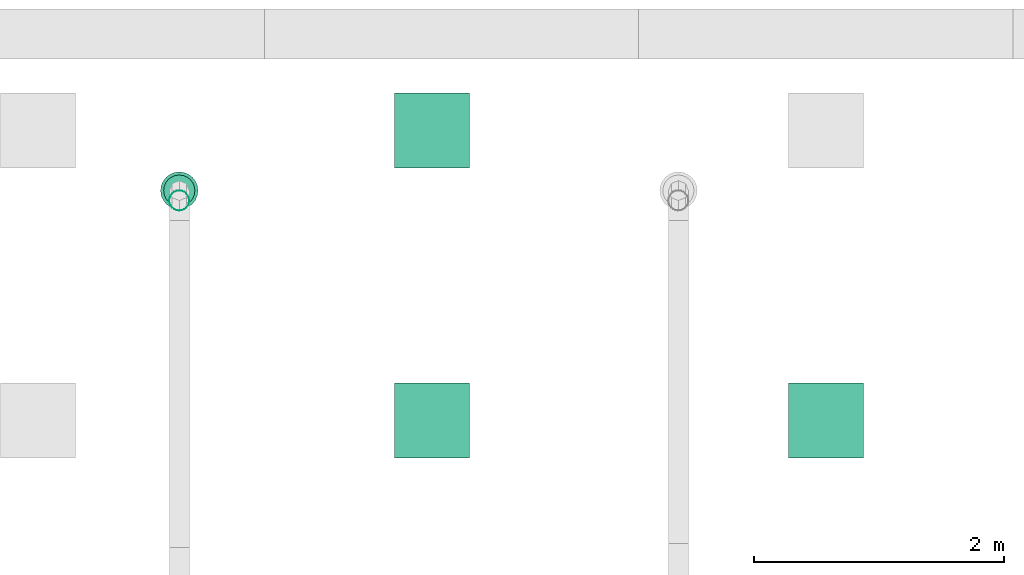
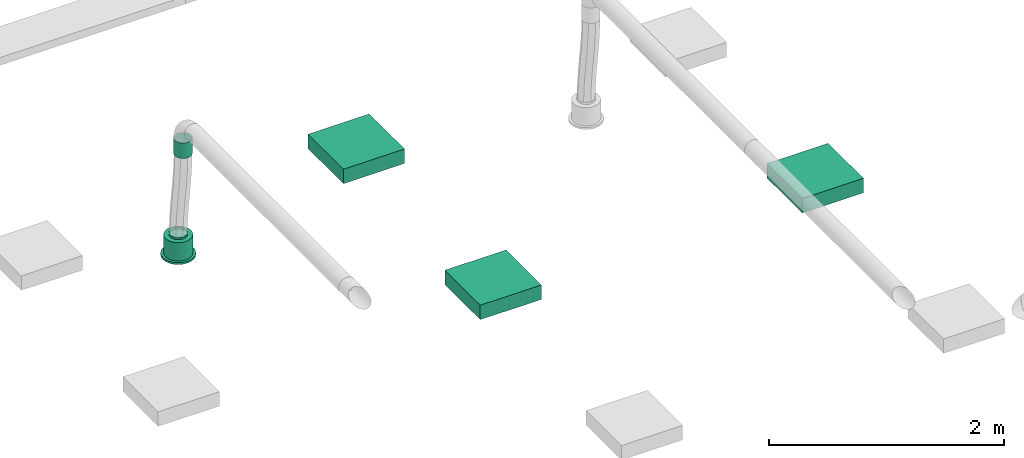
# One storey, part 41 of 374: 3 distribution elements, 1 flow segment, 1 flow terminal.
"""IFC2X3 building model written with IfcOpenShell, lengths in metres."""

from ifc_helpers import new_model, si_unit, direction, frame, frame_2d, origin, place, context, subcontext, project, spatial, rectangle, extrude, open_shell, surface_model, source, transform, mapped, element, save


model = new_model("IFC2X3")

# Units and contexts
model_context = context("Model", 3, precision=1e-05, world=origin(), true_north=direction((-0.4480736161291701, 0.8939966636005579)))
body_context = subcontext(model_context, "Body", "Model", "MODEL_VIEW")
ifc_project = project(units=[si_unit("LENGTHUNIT", "METRE"), si_unit("AREAUNIT", "SQUARE_METRE"), si_unit("VOLUMEUNIT", "CUBIC_METRE"), si_unit("PLANEANGLEUNIT", "RADIAN"), si_unit("THERMODYNAMICTEMPERATUREUNIT", "KELVIN"), si_unit("MASSUNIT", "GRAM", prefix="KILO"), si_unit("TIMEUNIT", "SECOND")], contexts=[model_context])

# Site, building, storey
site_placement = place(None, origin())
site = spatial("IfcSite", under=ifc_project, at=site_placement, Name="Site 1", CompositionType="ELEMENT")
building_placement = place(site_placement, origin())
building = spatial("IfcBuilding", under=site, at=building_placement, Name="Undefined", CompositionType="ELEMENT")
storey_placement = place(building_placement, origin())
storey = spatial("IfcBuildingStorey", under=building, at=storey_placement, Name="Rez de chauss\x8ee", CompositionType="ELEMENT", Elevation=0.0)

# Flow terminal
shared_shape_1 = source(origin(), body_context, "Body", "SurfaceModel", [
    surface_model("IfcFaceBasedSurfaceModel", [(0.0, 0.0, 0.0), (0.03915785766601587, 0.0, 0.0), (0.03915785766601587, 0.020000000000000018, 0.0), (3.552713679e-15, 0.020000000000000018, 0.0), (0.07698144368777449, 0.0, -0.010134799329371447), (0.07698144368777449, 0.020000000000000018, -0.010134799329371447), (0.11089314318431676, 0.0, -0.02971372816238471), (0.11089314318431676, 0.020000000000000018, -0.02971372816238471), (0.13858192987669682, 0.0, -0.05740251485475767), (0.13858192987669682, 0.020000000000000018, -0.05740251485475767), (0.15816085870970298, 0.0, -0.09131421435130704), (0.15816085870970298, 0.020000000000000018, -0.09131421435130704), (0.16829565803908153, 0.0, -0.12913780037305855), (0.16829565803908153, 0.020000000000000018, -0.12913780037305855), (0.16829565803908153, 0.0, -0.16829565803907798), (0.16829565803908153, 0.020000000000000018, -0.16829565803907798), (0.15816085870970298, 0.0, -0.20611924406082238), (0.15816085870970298, 0.020000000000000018, -0.20611924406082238), (0.13858192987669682, 0.0, -0.24003094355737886), (0.13858192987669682, 0.020000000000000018, -0.24003094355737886), (0.11089314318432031, 0.0, -0.2677197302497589), (0.11089314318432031, 0.020000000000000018, -0.2677197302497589), (0.07698144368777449, 0.0, -0.2872986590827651), (0.07698144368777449, 0.020000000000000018, -0.2872986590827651), (0.039157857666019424, 0.0, -0.29743345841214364), (0.039157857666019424, 0.020000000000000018, -0.29743345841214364), (3.552713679e-15, 0.0, -0.29743345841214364), (3.552713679e-15, 0.020000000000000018, -0.29743345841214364), (-0.03782358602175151, 0.0, -0.2872986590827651), (-0.03782358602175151, 0.020000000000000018, -0.2872986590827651), (-0.07173528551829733, 0.0, -0.2677197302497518), (-0.07173528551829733, 0.020000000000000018, -0.2677197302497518), (-0.0994240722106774, 0.0, -0.24003094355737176), (-0.0994240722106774, 0.020000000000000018, -0.24003094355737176), (-0.11900300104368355, 0.0, -0.2061192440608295), (-0.11900300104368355, 0.020000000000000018, -0.2061192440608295), (-0.1291378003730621, 0.0, -0.16829565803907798), (-0.1291378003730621, 0.020000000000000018, -0.16829565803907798), (-0.1291378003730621, 0.0, -0.12913780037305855), (-0.1291378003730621, 0.020000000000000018, -0.12913780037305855), (-0.11900300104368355, 0.0, -0.09131421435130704), (-0.11900300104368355, 0.020000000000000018, -0.09131421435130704), (-0.0994240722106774, 0.0, -0.05740251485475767), (-0.0994240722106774, 0.020000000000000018, -0.05740251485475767), (-0.07173528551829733, 0.0, -0.029713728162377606), (-0.07173528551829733, 0.020000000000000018, -0.029713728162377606), (-0.03782358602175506, 0.0, -0.010134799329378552), (-0.03782358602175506, 0.020000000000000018, -0.010134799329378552), (0.019578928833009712, 0.0, -0.14871672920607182), (0.019578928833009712, 0.020000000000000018, -0.14871672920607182), (0.003263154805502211, 0.020000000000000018, -0.02478612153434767), (0.035894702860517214, 0.020000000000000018, -0.02478612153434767), (0.035894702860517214, 0.20999999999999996, -0.02478612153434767), (0.003263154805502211, 0.20999999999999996, -0.02478612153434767), (0.06741435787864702, 0.020000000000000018, -0.033231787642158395), (0.06741435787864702, 0.20999999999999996, -0.033231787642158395), (0.0956741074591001, 0.020000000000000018, -0.04954756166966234), (0.0956741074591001, 0.20999999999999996, -0.04954756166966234), (0.11874809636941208, 0.020000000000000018, -0.07262155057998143), (0.11874809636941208, 0.20999999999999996, -0.07262155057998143), (0.13506387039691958, 0.020000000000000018, -0.10088130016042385), (0.13506387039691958, 0.20999999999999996, -0.10088130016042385), (0.1435095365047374, 0.020000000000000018, -0.13240095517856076), (0.1435095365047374, 0.20999999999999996, -0.13240095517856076), (0.1435095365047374, 0.020000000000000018, -0.16503250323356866), (0.1435095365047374, 0.20999999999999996, -0.16503250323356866), (0.13506387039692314, 0.020000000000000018, -0.19655215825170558), (0.13506387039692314, 0.20999999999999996, -0.19655215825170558), (0.11874809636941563, 0.020000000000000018, -0.2248119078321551), (0.11874809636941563, 0.20999999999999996, -0.2248119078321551), (0.09567410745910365, 0.020000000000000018, -0.24788589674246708), (0.09567410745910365, 0.20999999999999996, -0.24788589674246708), (0.06741435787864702, 0.020000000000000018, -0.26420167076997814), (0.06741435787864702, 0.20999999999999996, -0.26420167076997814), (0.035894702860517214, 0.020000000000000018, -0.27264733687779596), (0.035894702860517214, 0.20999999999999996, -0.27264733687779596), (0.0032631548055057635, 0.020000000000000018, -0.27264733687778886), (0.0032631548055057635, 0.20999999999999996, -0.27264733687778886), (-0.028256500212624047, 0.020000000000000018, -0.26420167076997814), (-0.028256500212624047, 0.20999999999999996, -0.26420167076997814), (-0.05651624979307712, 0.020000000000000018, -0.2478858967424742), (-0.05651624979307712, 0.20999999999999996, -0.2478858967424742), (-0.07959023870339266, 0.020000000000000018, -0.2248119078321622), (-0.07959023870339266, 0.20999999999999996, -0.2248119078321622), (-0.09590601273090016, 0.020000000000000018, -0.19655215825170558), (-0.09590601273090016, 0.20999999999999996, -0.19655215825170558), (-0.10435167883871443, 0.020000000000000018, -0.16503250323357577), (-0.10435167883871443, 0.20999999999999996, -0.16503250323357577), (-0.10435167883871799, 0.020000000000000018, -0.13240095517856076), (-0.10435167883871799, 0.20999999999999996, -0.13240095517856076), (-0.09590601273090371, 0.020000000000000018, -0.10088130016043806), (-0.09590601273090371, 0.20999999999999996, -0.10088130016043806), (-0.07959023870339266, 0.020000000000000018, -0.07262155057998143), (-0.07959023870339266, 0.20999999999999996, -0.07262155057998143), (-0.056516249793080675, 0.020000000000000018, -0.04954756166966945), (-0.056516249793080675, 0.20999999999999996, -0.04954756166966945), (-0.028256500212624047, 0.020000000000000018, -0.033231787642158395), (-0.028256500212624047, 0.20999999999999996, -0.033231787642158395), (0.019578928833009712, 0.20999999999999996, -0.14871672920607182), (0.009136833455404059, 0.20999999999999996, -0.06940114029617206), (0.030021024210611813, 0.20999999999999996, -0.06940114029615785), (0.030021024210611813, 0.22999999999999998, -0.06940114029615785), (0.009136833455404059, 0.22999999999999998, -0.06940114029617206), (0.05019360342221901, 0.20999999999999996, -0.07480636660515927), (0.05019360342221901, 0.22999999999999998, -0.07480636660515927), (0.06827984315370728, 0.20999999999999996, -0.08524846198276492), (0.06827984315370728, 0.22999999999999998, -0.08524846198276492), (0.0830471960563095, 0.20999999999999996, -0.10001581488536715), (0.0830471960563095, 0.22999999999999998, -0.10001581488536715), (0.0934892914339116, 0.20999999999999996, -0.11810205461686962), (0.0934892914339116, 0.22999999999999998, -0.11810205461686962), (0.09889451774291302, 0.20999999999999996, -0.13827463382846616), (0.09889451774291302, 0.22999999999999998, -0.13827463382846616), (0.09889451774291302, 0.20999999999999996, -0.15915882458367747), (0.09889451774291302, 0.22999999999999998, -0.15915882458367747), (0.09348929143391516, 0.20999999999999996, -0.179331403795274), (0.09348929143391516, 0.22999999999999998, -0.179331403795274), (0.0830471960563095, 0.20999999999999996, -0.19741764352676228), (0.0830471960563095, 0.22999999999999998, -0.19741764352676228), (0.06827984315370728, 0.20999999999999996, -0.2121849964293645), (0.06827984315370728, 0.22999999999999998, -0.2121849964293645), (0.05019360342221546, 0.20999999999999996, -0.22262709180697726), (0.05019360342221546, 0.22999999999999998, -0.22262709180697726), (0.030021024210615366, 0.20999999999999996, -0.22803231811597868), (0.030021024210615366, 0.22999999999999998, -0.22803231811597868), (0.009136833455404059, 0.20999999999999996, -0.22803231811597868), (0.009136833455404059, 0.22999999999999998, -0.22803231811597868), (-0.011035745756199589, 0.20999999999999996, -0.22262709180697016), (-0.011035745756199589, 0.22999999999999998, -0.22262709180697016), (-0.0291219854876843, 0.20999999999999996, -0.2121849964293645), (-0.0291219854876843, 0.22999999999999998, -0.2121849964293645), (-0.043889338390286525, 0.20999999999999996, -0.19741764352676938), (-0.043889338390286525, 0.22999999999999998, -0.19741764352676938), (-0.05433143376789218, 0.20999999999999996, -0.17933140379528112), (-0.05433143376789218, 0.22999999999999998, -0.17933140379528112), (-0.05973666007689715, 0.20999999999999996, -0.15915882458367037), (-0.05973666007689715, 0.22999999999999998, -0.15915882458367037), (-0.0597366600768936, 0.20999999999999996, -0.13827463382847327), (-0.0597366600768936, 0.22999999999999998, -0.13827463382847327), (-0.05433143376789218, 0.20999999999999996, -0.11810205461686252), (-0.05433143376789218, 0.22999999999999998, -0.11810205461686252), (-0.043889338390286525, 0.20999999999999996, -0.10001581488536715), (-0.043889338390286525, 0.22999999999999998, -0.10001581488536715), (-0.02912198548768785, 0.20999999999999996, -0.08524846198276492), (-0.02912198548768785, 0.22999999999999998, -0.08524846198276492), (-0.011035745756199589, 0.20999999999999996, -0.07480636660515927), (-0.011035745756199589, 0.22999999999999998, -0.07480636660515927)], [open_shell([[[0, 1, 2, 3]], [[1, 4, 5, 2]], [[4, 6, 7, 5]], [[6, 8, 9, 7]], [[8, 10, 11, 9]], [[10, 12, 13, 11]], [[12, 14, 15, 13]], [[14, 16, 17, 15]], [[16, 18, 19, 17]], [[18, 20, 21, 19]], [[20, 22, 23, 21]], [[22, 24, 25, 23]], [[24, 26, 27, 25]], [[26, 28, 29, 27]], [[28, 30, 31, 29]], [[30, 32, 33, 31]], [[32, 34, 35, 33]], [[34, 36, 37, 35]], [[36, 38, 39, 37]], [[38, 40, 41, 39]], [[40, 42, 43, 41]], [[42, 44, 45, 43]], [[44, 46, 47, 45]], [[46, 0, 3, 47]], [[48, 1, 0]], [[48, 4, 1]], [[48, 6, 4]], [[48, 8, 6]], [[48, 10, 8]], [[48, 12, 10]], [[48, 14, 12]], [[48, 16, 14]], [[48, 18, 16]], [[48, 20, 18]], [[48, 22, 20]], [[48, 24, 22]], [[48, 26, 24]], [[48, 28, 26]], [[48, 30, 28]], [[48, 32, 30]], [[48, 34, 32]], [[48, 36, 34]], [[48, 38, 36]], [[48, 40, 38]], [[48, 42, 40]], [[48, 44, 42]], [[48, 46, 44]], [[48, 0, 46]], [[49, 47, 3]], [[49, 45, 47]], [[49, 43, 45]], [[49, 41, 43]], [[49, 39, 41]], [[49, 37, 39]], [[49, 35, 37]], [[49, 33, 35]], [[49, 31, 33]], [[49, 29, 31]], [[49, 27, 29]], [[49, 25, 27]], [[49, 23, 25]], [[49, 21, 23]], [[49, 19, 21]], [[49, 17, 19]], [[49, 15, 17]], [[49, 13, 15]], [[49, 11, 13]], [[49, 9, 11]], [[49, 7, 9]], [[49, 5, 7]], [[49, 2, 5]], [[49, 3, 2]], [[50, 51, 52, 53]], [[51, 54, 55, 52]], [[54, 56, 57, 55]], [[56, 58, 59, 57]], [[58, 60, 61, 59]], [[60, 62, 63, 61]], [[62, 64, 65, 63]], [[64, 66, 67, 65]], [[66, 68, 69, 67]], [[68, 70, 71, 69]], [[70, 72, 73, 71]], [[72, 74, 75, 73]], [[74, 76, 77, 75]], [[76, 78, 79, 77]], [[78, 80, 81, 79]], [[80, 82, 83, 81]], [[82, 84, 85, 83]], [[84, 86, 87, 85]], [[86, 88, 89, 87]], [[88, 90, 91, 89]], [[90, 92, 93, 91]], [[92, 94, 95, 93]], [[94, 96, 97, 95]], [[96, 50, 53, 97]], [[49, 51, 50]], [[49, 54, 51]], [[49, 56, 54]], [[49, 58, 56]], [[49, 60, 58]], [[49, 62, 60]], [[49, 64, 62]], [[49, 66, 64]], [[49, 68, 66]], [[49, 70, 68]], [[49, 72, 70]], [[49, 74, 72]], [[49, 76, 74]], [[49, 78, 76]], [[49, 80, 78]], [[49, 82, 80]], [[49, 84, 82]], [[49, 86, 84]], [[49, 88, 86]], [[49, 90, 88]], [[49, 92, 90]], [[49, 94, 92]], [[49, 96, 94]], [[49, 50, 96]], [[98, 97, 53]], [[98, 95, 97]], [[98, 93, 95]], [[98, 91, 93]], [[98, 89, 91]], [[98, 87, 89]], [[98, 85, 87]], [[98, 83, 85]], [[98, 81, 83]], [[98, 79, 81]], [[98, 77, 79]], [[98, 75, 77]], [[98, 73, 75]], [[98, 71, 73]], [[98, 69, 71]], [[98, 67, 69]], [[98, 65, 67]], [[98, 63, 65]], [[98, 61, 63]], [[98, 59, 61]], [[98, 57, 59]], [[98, 55, 57]], [[98, 52, 55]], [[98, 53, 52]], [[99, 100, 101, 102]], [[100, 103, 104, 101]], [[103, 105, 106, 104]], [[105, 107, 108, 106]], [[107, 109, 110, 108]], [[109, 111, 112, 110]], [[111, 113, 114, 112]], [[113, 115, 116, 114]], [[115, 117, 118, 116]], [[117, 119, 120, 118]], [[119, 121, 122, 120]], [[121, 123, 124, 122]], [[123, 125, 126, 124]], [[125, 127, 128, 126]], [[127, 129, 130, 128]], [[129, 131, 132, 130]], [[131, 133, 134, 132]], [[133, 135, 136, 134]], [[135, 137, 138, 136]], [[137, 139, 140, 138]], [[139, 141, 142, 140]], [[141, 143, 144, 142]], [[143, 145, 146, 144]], [[145, 99, 102, 146]]])]),
])
flow_terminal_placement = place(storey_placement, origin())
element("IfcFlowTerminal", 1, at=flow_terminal_placement, inside=storey, Name="Air diffuseur - bouche", ObjectType="Air diffuseur - bouche", context=body_context, shape_type="MappedRepresentation", body=[
    mapped(shared_shape_1, transform((14.980053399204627, 16.80529701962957, 2.38), x_axis=(0.9914448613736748, 0.13052619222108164, 0.0), y_axis=(0.0, 0.0, 1.0), z_axis=(0.13052619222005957, -0.9914448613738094, 0.0))),
])

# Flow segment
shared_shape_2 = source(origin(), body_context, "Body", "SurfaceModel", [
    surface_model("IfcFaceBasedSurfaceModel", [(0.0, 0.020884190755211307, 0.0), (0.0, 0.0, 0.0), (0.16000000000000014, 0.0, -4.4408921e-16), (0.16000000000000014, 0.0208841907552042, -4.4408921e-16), (0.0, -0.020172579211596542, -0.005405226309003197), (0.16000000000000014, -0.020172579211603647, -0.005405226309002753), (0.0, -0.03825881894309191, -0.015847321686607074), (0.16000000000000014, -0.03825881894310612, -0.015847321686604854), (0.0, -0.05302617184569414, -0.0306146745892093), (0.16000000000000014, -0.05302617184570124, -0.03061467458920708), (0.0, -0.06346826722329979, -0.04870091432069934), (0.16000000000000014, -0.0634682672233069, -0.04870091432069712), (0.0, -0.06887349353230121, -0.06887349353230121), (0.16000000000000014, -0.06887349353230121, -0.06887349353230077), (0.0, -0.06887349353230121, -0.08975768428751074), (0.16000000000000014, -0.06887349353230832, -0.08975768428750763), (0.0, -0.06346826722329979, -0.10993026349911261), (0.16000000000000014, -0.0634682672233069, -0.10993026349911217), (0.0, -0.05302617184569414, -0.12801650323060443), (0.16000000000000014, -0.05302617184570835, -0.1280165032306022), (0.0, -0.038258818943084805, -0.14278385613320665), (0.16000000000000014, -0.03825881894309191, -0.14278385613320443), (0.0, -0.020172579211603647, -0.15322595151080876), (0.16000000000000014, -0.020172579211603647, -0.1532259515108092), (0.0, 7.105427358e-15, -0.15863117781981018), (0.16000000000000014, -7.105427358e-15, -0.15863117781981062), (0.0, 0.020884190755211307, -0.15863117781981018), (0.16000000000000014, 0.0208841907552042, -0.15863117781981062), (0.0, 0.04105676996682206, -0.15322595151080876), (0.16000000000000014, 0.04105676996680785, -0.1532259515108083), (0.0, 0.05914300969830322, -0.1427838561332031), (0.16000000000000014, 0.05914300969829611, -0.14278385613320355), (0.0, 0.07391036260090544, -0.12801650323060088), (0.16000000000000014, 0.07391036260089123, -0.1280165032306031), (0.0, 0.0843524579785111, -0.10993026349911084), (0.16000000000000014, 0.08435245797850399, -0.10993026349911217), (0.0, 0.08975768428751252, -0.08975768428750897), (0.16000000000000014, 0.08975768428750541, -0.08975768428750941), (0.0, 0.08975768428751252, -0.06887349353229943), (0.16000000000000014, 0.08975768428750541, -0.06887349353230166), (0.0, 0.0843524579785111, -0.048700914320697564), (0.16000000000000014, 0.08435245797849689, -0.04870091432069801), (0.0, 0.07391036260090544, -0.030614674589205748), (0.16000000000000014, 0.07391036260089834, -0.03061467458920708), (0.0, 0.05914300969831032, -0.015847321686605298), (0.16000000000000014, 0.05914300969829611, -0.01584732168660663), (0.0, 0.04105676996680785, -0.005405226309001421), (0.16000000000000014, 0.04105676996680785, -0.005405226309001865)], [open_shell([[[0, 1, 2, 3]], [[1, 4, 5, 2]], [[4, 6, 7, 5]], [[6, 8, 9, 7]], [[8, 10, 11, 9]], [[10, 12, 13, 11]], [[12, 14, 15, 13]], [[14, 16, 17, 15]], [[16, 18, 19, 17]], [[18, 20, 21, 19]], [[20, 22, 23, 21]], [[22, 24, 25, 23]], [[24, 26, 27, 25]], [[26, 28, 29, 27]], [[28, 30, 31, 29]], [[30, 32, 33, 31]], [[32, 34, 35, 33]], [[34, 36, 37, 35]], [[36, 38, 39, 37]], [[38, 40, 41, 39]], [[40, 42, 43, 41]], [[42, 44, 45, 43]], [[44, 46, 47, 45]], [[46, 0, 3, 47]]])]),
])
flow_segment_placement = place(storey_placement, origin())
element("IfcFlowSegment", 2, at=flow_segment_placement, inside=storey, Name="Tube", ObjectType="Tube", context=body_context, shape_type="MappedRepresentation", body=[
    mapped(shared_shape_2, transform((15.000758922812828, 16.798022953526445, 3.4800000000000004), x_axis=(0.0, 0.0, 1.0), y_axis=(-0.9914448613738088, -0.13052619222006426, 0.0), z_axis=(0.13052619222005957, -0.9914448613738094, 0.0))),
])

# Distribution elements
distribution_element_1_placement = place(storey_placement, origin())
element("IfcDistributionElement", 3, at=distribution_element_1_placement, inside=storey, Name="Decken-Rechteckleuchte mit Rahmen AP", ObjectType="Decken-Rechteckleuchte mit Rahmen AP", context=body_context, shape_type="SweptSolid", body=[
    extrude(rectangle(XDim=0.6000000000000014, YDim=0.6000000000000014, at=frame_2d((3.552713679e-15, 0.0), x_axis=(0.0, 1.0))), frame((17.004756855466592, 15.1125, 2.5500000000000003), z_axis=(0.0, 0.0, -1.0), x_axis=(1.0, 0.0, 0.0)), (0.0, 0.0, 1.0), 0.15),
])
distribution_element_2_placement = place(storey_placement, origin())
element("IfcDistributionElement", 4, at=distribution_element_2_placement, inside=storey, Name="Decken-Rechteckleuchte mit Rahmen AP", ObjectType="Decken-Rechteckleuchte mit Rahmen AP", context=body_context, shape_type="SweptSolid", body=[
    extrude(rectangle(XDim=0.6000000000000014, YDim=0.6000000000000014, at=frame_2d((3.552713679e-15, 0.0), x_axis=(0.0, 1.0))), frame((17.004756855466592, 17.437499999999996, 2.5500000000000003), z_axis=(0.0, 0.0, -1.0), x_axis=(1.0, 0.0, 0.0)), (0.0, 0.0, 1.0), 0.15),
])
distribution_element_3_placement = place(storey_placement, origin())
element("IfcDistributionElement", 5, at=distribution_element_3_placement, inside=storey, Name="Decken-Rechteckleuchte mit Rahmen AP", ObjectType="Decken-Rechteckleuchte mit Rahmen AP", context=body_context, shape_type="SweptSolid", body=[
    extrude(rectangle(XDim=0.6000000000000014, YDim=0.6000000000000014, at=frame_2d((3.552713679e-15, 0.0), x_axis=(0.0, 1.0))), frame((20.162599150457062, 15.1125, 2.5500000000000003), z_axis=(0.0, 0.0, -1.0), x_axis=(1.0, 0.0, 0.0)), (0.0, 0.0, 1.0), 0.15),
])

save(model, "model.ifc")
